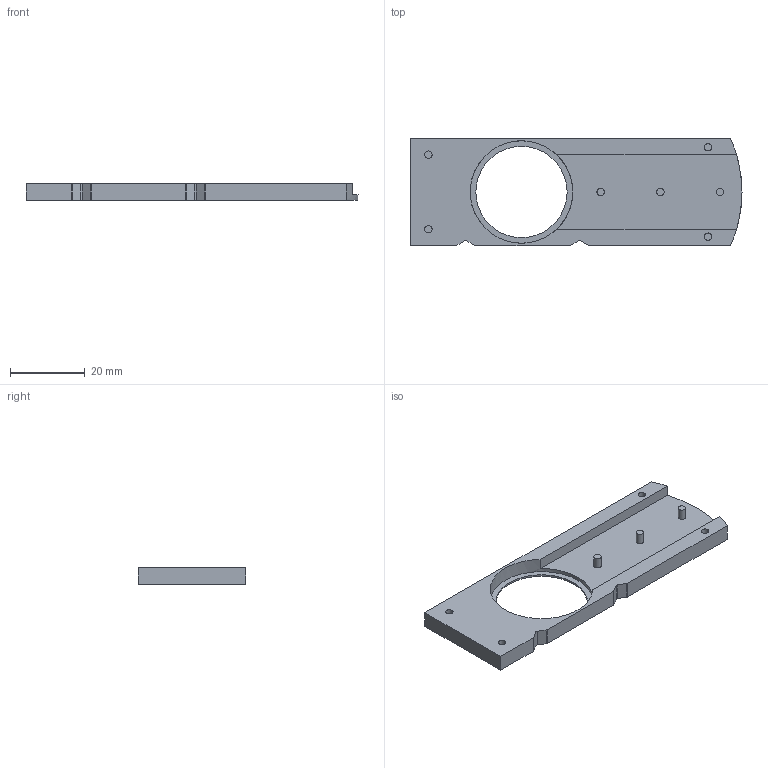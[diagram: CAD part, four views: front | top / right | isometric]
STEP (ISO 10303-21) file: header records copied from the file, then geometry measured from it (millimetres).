
FILE_DESCRIPTION(/* description */ (''),/* implementation_level */ '2;1');
FILE_NAME(/* name */ '主体_1.stp',/* time_stamp */ '2026-05-25T15:16:33+08:00',/* author */ (''),/* organization */ (''),/* preprocessor_version */ 'ST-DEVELOPER v20',/* originating_system */ 'SIEMENS PLM Software NX2412.1700',/* authorisation */ '');
FILE_SCHEMA (('AUTOMOTIVE_DESIGN { 1 0 10303 214 3 1 1 1 }'));
Length unit declared in the file: millimetre
Products named in the file (1): 主体
Bounding box: 89.05 x 28.8 x 4.5 mm (x, y, z)
Volume: 5979.6 mm3; surface area: 5834 mm2
Topology: 1 solids, 1 shells, 38 faces, 88 edges, 60 vertices
Faces by surface type: plane 22, cylinder 16
Full cylindrical faces by diameter (mm): 2 x7, 24.5 x1, 27.5 x1
Entity records: 1069 total; most frequent: DIRECTION 190, CARTESIAN_POINT 174, ORIENTED_EDGE 154, EDGE_CURVE 77, AXIS2_PLACEMENT_3D 74, VERTEX_POINT 57, EDGE_LOOP 56, LINE 42
